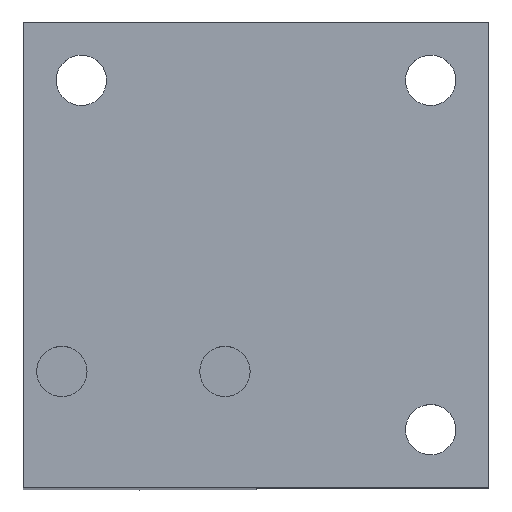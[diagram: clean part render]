
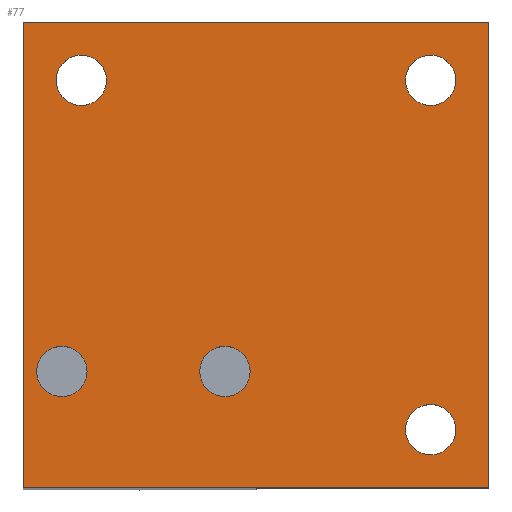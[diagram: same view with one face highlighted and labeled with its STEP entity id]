
A CAD part, top view. The second image highlights one B-rep face of the part: STEP entity #77.
In plain terms, the highlighted planar face has unit normal (0, 0, 1).
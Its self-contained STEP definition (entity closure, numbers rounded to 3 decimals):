
#77 = ADVANCED_FACE( '', ( #161, #162, #163, #164, #165, #166 ), #167, .T. );
#161 = FACE_BOUND( '', #245, .T. );
#162 = FACE_BOUND( '', #246, .T. );
#163 = FACE_OUTER_BOUND( '', #247, .T. );
#164 = FACE_BOUND( '', #248, .T. );
#165 = FACE_BOUND( '', #249, .T. );
#166 = FACE_BOUND( '', #250, .T. );
#167 = PLANE( '', #251 );
#245 = EDGE_LOOP( '', ( #386 ) );
#246 = EDGE_LOOP( '', ( #387 ) );
#247 = EDGE_LOOP( '', ( #388, #389, #390, #391 ) );
#248 = EDGE_LOOP( '', ( #392 ) );
#249 = EDGE_LOOP( '', ( #393 ) );
#250 = EDGE_LOOP( '', ( #394 ) );
#251 = AXIS2_PLACEMENT_3D( '', #395, #396, #397 );
#386 = ORIENTED_EDGE( '', *, *, #470, .F. );
#387 = ORIENTED_EDGE( '', *, *, #479, .F. );
#388 = ORIENTED_EDGE( '', *, *, #474, .T. );
#389 = ORIENTED_EDGE( '', *, *, #455, .T. );
#390 = ORIENTED_EDGE( '', *, *, #461, .T. );
#391 = ORIENTED_EDGE( '', *, *, #483, .T. );
#392 = ORIENTED_EDGE( '', *, *, #481, .F. );
#393 = ORIENTED_EDGE( '', *, *, #452, .F. );
#394 = ORIENTED_EDGE( '', *, *, #437, .F. );
#395 = CARTESIAN_POINT( '', ( 0., 0., 0. ) );
#396 = DIRECTION( '', ( 0., 0., 1. ) );
#397 = DIRECTION( '', ( 1., 0., 0. ) );
#437 = EDGE_CURVE( '', #504, #504, #505, .T. );
#452 = EDGE_CURVE( '', #530, #530, #531, .T. );
#455 = EDGE_CURVE( '', #535, #533, #536, .T. );
#461 = EDGE_CURVE( '', #533, #544, #545, .T. );
#470 = EDGE_CURVE( '', #555, #555, #556, .T. );
#474 = EDGE_CURVE( '', #560, #535, #561, .T. );
#479 = EDGE_CURVE( '', #567, #567, #568, .T. );
#481 = EDGE_CURVE( '', #570, #570, #571, .T. );
#483 = EDGE_CURVE( '', #544, #560, #573, .T. );
#504 = VERTEX_POINT( '', #594 );
#505 = CIRCLE( '', #595, 3.24 );
#530 = VERTEX_POINT( '', #626 );
#531 = CIRCLE( '', #627, 3.24 );
#533 = VERTEX_POINT( '', #629 );
#535 = VERTEX_POINT( '', #632 );
#536 = LINE( '', #633, #634 );
#544 = VERTEX_POINT( '', #646 );
#545 = LINE( '', #647, #648 );
#555 = VERTEX_POINT( '', #662 );
#556 = CIRCLE( '', #663, 3.24 );
#560 = VERTEX_POINT( '', #668 );
#561 = LINE( '', #669, #670 );
#567 = VERTEX_POINT( '', #679 );
#568 = CIRCLE( '', #680, 3.24 );
#570 = VERTEX_POINT( '', #682 );
#571 = CIRCLE( '', #683, 3.24 );
#573 = LINE( '', #685, #686 );
#594 = CARTESIAN_POINT( '', ( 3.24, 0., 0. ) );
#595 = AXIS2_PLACEMENT_3D( '', #713, #714, #715 );
#626 = CARTESIAN_POINT( '', ( 3.24, -45., 0. ) );
#627 = AXIS2_PLACEMENT_3D( '', #734, #735, #736 );
#629 = CARTESIAN_POINT( '', ( 7.5, -52.5, 0. ) );
#632 = CARTESIAN_POINT( '', ( -52.5, -52.5, 0. ) );
#633 = CARTESIAN_POINT( '', ( -52.5, -52.5, 0. ) );
#634 = VECTOR( '', #738, 1000. );
#646 = CARTESIAN_POINT( '', ( 7.5, 7.5, 0. ) );
#647 = CARTESIAN_POINT( '', ( 7.5, -52.5, 0. ) );
#648 = VECTOR( '', #743, 1000. );
#662 = CARTESIAN_POINT( '', ( -23.26, -37.5, 0. ) );
#663 = AXIS2_PLACEMENT_3D( '', #748, #749, #750 );
#668 = CARTESIAN_POINT( '', ( -52.5, 7.5, 0. ) );
#669 = CARTESIAN_POINT( '', ( -52.5, 7.5, 0. ) );
#670 = VECTOR( '', #752, 1000. );
#679 = CARTESIAN_POINT( '', ( -44.26, -37.5, 0. ) );
#680 = AXIS2_PLACEMENT_3D( '', #756, #757, #758 );
#682 = CARTESIAN_POINT( '', ( -41.76, 0., 0. ) );
#683 = AXIS2_PLACEMENT_3D( '', #759, #760, #761 );
#685 = CARTESIAN_POINT( '', ( 7.5, 7.5, 0. ) );
#686 = VECTOR( '', #762, 1000. );
#713 = CARTESIAN_POINT( '', ( 0., 0., 0. ) );
#714 = DIRECTION( '', ( 0., 0., 1. ) );
#715 = DIRECTION( '', ( 1., 0., 0. ) );
#734 = CARTESIAN_POINT( '', ( 0., -45., 0. ) );
#735 = DIRECTION( '', ( 0., 0., 1. ) );
#736 = DIRECTION( '', ( 1., 0., 0. ) );
#738 = DIRECTION( '', ( 1., 0., 0. ) );
#743 = DIRECTION( '', ( 0., 1., 0. ) );
#748 = CARTESIAN_POINT( '', ( -26.5, -37.5, 0. ) );
#749 = DIRECTION( '', ( 0., 0., 1. ) );
#750 = DIRECTION( '', ( 1., 0., 0. ) );
#752 = DIRECTION( '', ( 0., -1., 0. ) );
#756 = CARTESIAN_POINT( '', ( -47.5, -37.5, 0. ) );
#757 = DIRECTION( '', ( 0., 0., 1. ) );
#758 = DIRECTION( '', ( 1., 0., 0. ) );
#759 = CARTESIAN_POINT( '', ( -45., 0., 0. ) );
#760 = DIRECTION( '', ( 0., 0., 1. ) );
#761 = DIRECTION( '', ( 1., 0., 0. ) );
#762 = DIRECTION( '', ( -1., 0., 0. ) );
